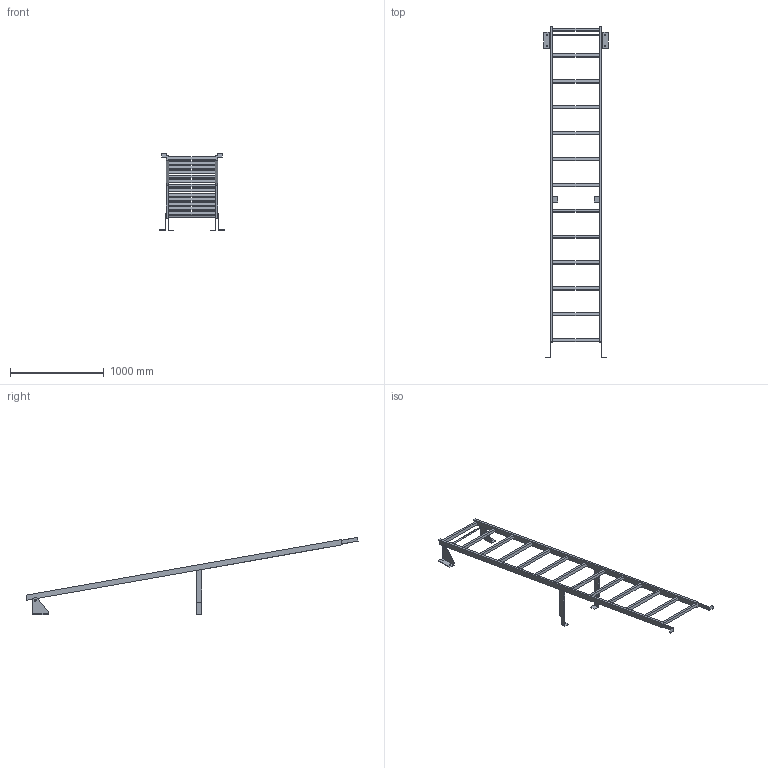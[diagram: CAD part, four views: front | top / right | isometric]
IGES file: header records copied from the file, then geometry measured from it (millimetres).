
Start section:  PTC IGES file: 52309778.igs
Global section: file name: 52309778.igs; native system: Creo Parametric by PTC Inc.; preprocessor: 2022162; author: wep; organization: Unknown; date: 20241017.090410; units: millimetre
Bounding box: 690 x 3537.97 x 821.28 mm (x, y, z)
Surface area: 2273074.2 mm2 (no closed solid volume)
Topology: 0 solids, 0 shells, 136 faces, 720 edges, 720 vertices
Faces by surface type: bspline 120, revolution 16
